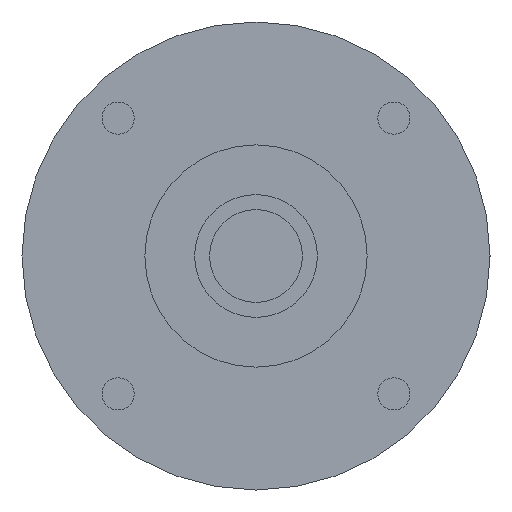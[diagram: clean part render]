
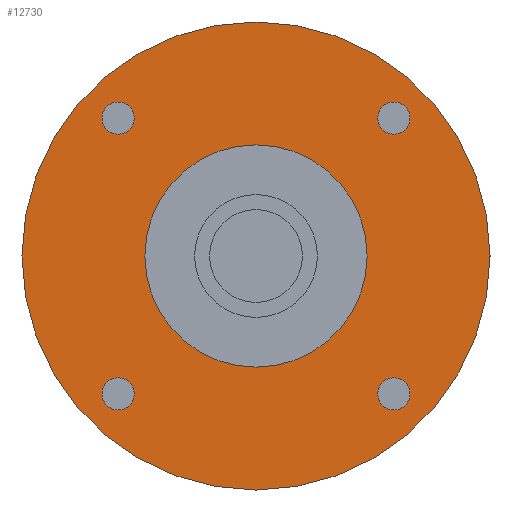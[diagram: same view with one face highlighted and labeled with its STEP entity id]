
A CAD part, left-side view. The second image highlights one B-rep face of the part: STEP entity #12730.
In plain terms, the highlighted planar face has unit normal (-1, 0, 0) as drawn and (0, 0, -1) by its records, which use the part's own axes.
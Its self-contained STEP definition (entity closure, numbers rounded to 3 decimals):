
#11590=CARTESIAN_POINT('',(-40.,0.,-42.2));
#11600=VERTEX_POINT('',#11590);
#11690=CARTESIAN_POINT('',(40.,0.,-42.2));
#11700=VERTEX_POINT('',#11690);
#11730=CARTESIAN_POINT('',(0.,0.,
-42.2));
#11740=DIRECTION('',(0.,0.,1.));
#11750=DIRECTION('',(1.,0.,0.));
#11760=AXIS2_PLACEMENT_3D('',#11730,#11740,#11750);
#11770=CIRCLE('',#11760,40.);
#11780=CARTESIAN_POINT('',(0.,-40.,-42.2));
#11790=VERTEX_POINT('',#11780);
#11800=EDGE_CURVE('',#11790,#11700,#11770,.T.);
#11820=EDGE_CURVE('',#11600,#11790,#11770,.T.);
#11870=CARTESIAN_POINT('',(0.,0.,
-42.2));
#11880=DIRECTION('',(0.,0.,-1.));
#11890=DIRECTION('',(1.,0.,0.));
#11900=AXIS2_PLACEMENT_3D('',#11870,#11880,#11890);
#11910=PLANE('',#11900);
#11920=CARTESIAN_POINT('',(23.571,23.571,-42.2));
#11930=DIRECTION('',(0.,0.,-1.));
#11940=DIRECTION('',(0.,1.,0.));
#11950=AXIS2_PLACEMENT_3D('',#11920,#11930,#11940);
#11960=CIRCLE('',#11950,2.75);
#11970=CARTESIAN_POINT('',(23.571,26.321,-42.2));
#11980=VERTEX_POINT('',#11970);
#11990=CARTESIAN_POINT('',(23.571,20.821,-42.2));
#12000=VERTEX_POINT('',#11990);
#12010=EDGE_CURVE('',#11980,#12000,#11960,.T.);
#12020=ORIENTED_EDGE('',*,*,#12010,.F.);
#12030=EDGE_CURVE('',#12000,#11980,#11960,.T.);
#12040=ORIENTED_EDGE('',*,*,#12030,.F.);
#12050=EDGE_LOOP('',(#12040,#12020));
#12060=FACE_BOUND('',#12050,.T.);
#12070=CARTESIAN_POINT('',(-23.571,23.571,-42.2));
#12080=DIRECTION('',(0.,0.,-1.));
#12090=DIRECTION('',(-1.,0.,0.));
#12100=AXIS2_PLACEMENT_3D('',#12070,#12080,#12090);
#12110=CIRCLE('',#12100,2.75);
#12120=CARTESIAN_POINT('',(-26.321,23.571,-42.2));
#12130=VERTEX_POINT('',#12120);
#12140=CARTESIAN_POINT('',(-20.821,23.571,-42.2));
#12150=VERTEX_POINT('',#12140);
#12160=EDGE_CURVE('',#12130,#12150,#12110,.T.);
#12170=ORIENTED_EDGE('',*,*,#12160,.F.);
#12180=EDGE_CURVE('',#12150,#12130,#12110,.T.);
#12190=ORIENTED_EDGE('',*,*,#12180,.F.);
#12200=EDGE_LOOP('',(#12190,#12170));
#12210=FACE_BOUND('',#12200,.T.);
#12220=CARTESIAN_POINT('',(-23.571,-23.571,-42.2));
#12230=DIRECTION('',(0.,0.,-1.));
#12240=DIRECTION('',(0.,-1.,0.));
#12250=AXIS2_PLACEMENT_3D('',#12220,#12230,#12240);
#12260=CIRCLE('',#12250,2.75);
#12270=CARTESIAN_POINT('',(-23.571,-26.321,-42.2));
#12280=VERTEX_POINT('',#12270);
#12290=CARTESIAN_POINT('',(-23.571,-20.821,-42.2));
#12300=VERTEX_POINT('',#12290);
#12310=EDGE_CURVE('',#12280,#12300,#12260,.T.);
#12320=ORIENTED_EDGE('',*,*,#12310,.F.);
#12330=EDGE_CURVE('',#12300,#12280,#12260,.T.);
#12340=ORIENTED_EDGE('',*,*,#12330,.F.);
#12350=EDGE_LOOP('',(#12340,#12320));
#12360=FACE_BOUND('',#12350,.T.);
#12370=CARTESIAN_POINT('',(0.,0.,
-42.2));
#12380=DIRECTION('',(0.,0.,1.));
#12390=DIRECTION('',(1.,0.,0.));
#12400=AXIS2_PLACEMENT_3D('',#12370,#12380,#12390);
#12410=CIRCLE('',#12400,19.);
#12420=CARTESIAN_POINT('',(19.,0.,-42.2));
#12430=VERTEX_POINT('',#12420);
#12440=CARTESIAN_POINT('',(-19.,0.,-42.2));
#12450=VERTEX_POINT('',#12440);
#12460=EDGE_CURVE('',#12430,#12450,#12410,.T.);
#12470=ORIENTED_EDGE('',*,*,#12460,.T.);
#12480=EDGE_CURVE('',#12450,#12430,#12410,.T.);
#12490=ORIENTED_EDGE('',*,*,#12480,.T.);
#12500=EDGE_LOOP('',(#12490,#12470));
#12510=FACE_BOUND('',#12500,.T.);
#12520=CARTESIAN_POINT('',(23.571,-23.571,-42.2));
#12530=DIRECTION('',(0.,0.,-1.));
#12540=DIRECTION('',(1.,0.,0.));
#12550=AXIS2_PLACEMENT_3D('',#12520,#12530,#12540);
#12560=CIRCLE('',#12550,2.75);
#12570=CARTESIAN_POINT('',(26.321,-23.571,-42.2));
#12580=VERTEX_POINT('',#12570);
#12590=CARTESIAN_POINT('',(20.821,-23.571,-42.2));
#12600=VERTEX_POINT('',#12590);
#12610=EDGE_CURVE('',#12580,#12600,#12560,.T.);
#12620=ORIENTED_EDGE('',*,*,#12610,.F.);
#12630=EDGE_CURVE('',#12600,#12580,#12560,.T.);
#12640=ORIENTED_EDGE('',*,*,#12630,.F.);
#12650=EDGE_LOOP('',(#12640,#12620));
#12660=FACE_BOUND('',#12650,.T.);
#12670=ORIENTED_EDGE('',*,*,#11800,.F.);
#12680=EDGE_CURVE('',#11700,#11600,#11770,.T.);
#12690=ORIENTED_EDGE('',*,*,#12680,.F.);
#12700=ORIENTED_EDGE('',*,*,#11820,.F.);
#12710=EDGE_LOOP('',(#12700,#12690,#12670));
#12720=FACE_OUTER_BOUND('',#12710,.T.);
#12730=ADVANCED_FACE('',(#12060,#12210,#12360,#12510,#12660,#12720),
#11910,.T.);
